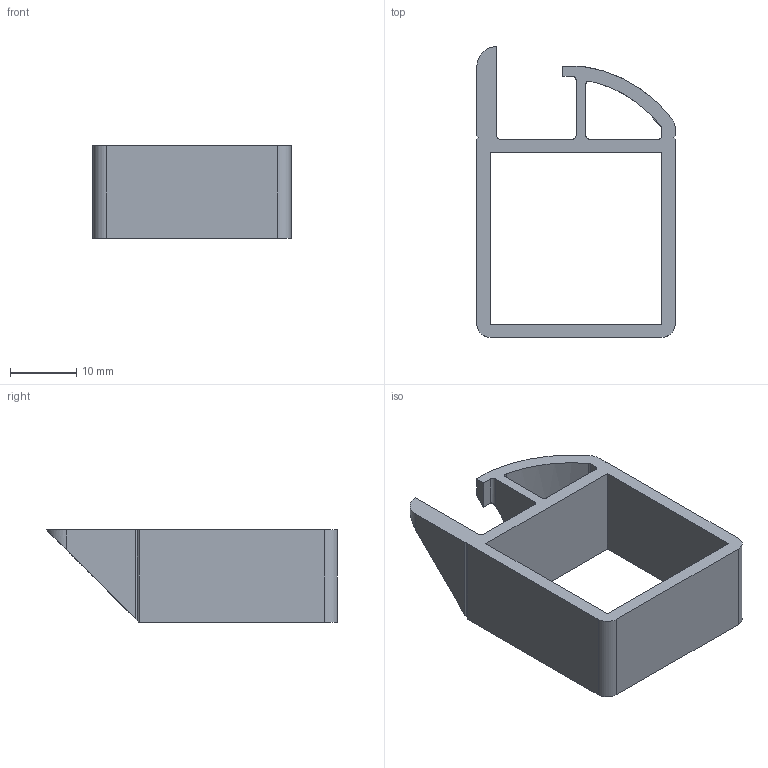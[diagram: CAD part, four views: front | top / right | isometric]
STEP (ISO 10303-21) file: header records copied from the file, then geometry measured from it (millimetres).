
FILE_DESCRIPTION (( 'STEP AP203' ), '1' );
FILE_NAME ('F030231.STEP', '2017-03-22T12:55:05', ( 'Localadmin' ), ( 'Microsoft' ), 'SwSTEP 2.0', 'SolidWorks 2016', '' );
FILE_SCHEMA (( 'CONFIG_CONTROL_DESIGN' ));
Length unit declared in the file: millimetre
Products named in the file (1): F030231
Bounding box: 30 x 44 x 14 mm (x, y, z)
Volume: 3828.5 mm3; surface area: 4345.1 mm2
Topology: 1 solids, 1 shells, 39 faces, 107 edges, 69 vertices
Faces by surface type: plane 26, cylinder 13
Entity records: 1305 total; most frequent: CARTESIAN_POINT 249, ORIENTED_EDGE 214, DIRECTION 191, EDGE_CURVE 107, LINE 81, VECTOR 81, VERTEX_POINT 69, AXIS2_PLACEMENT_3D 55
